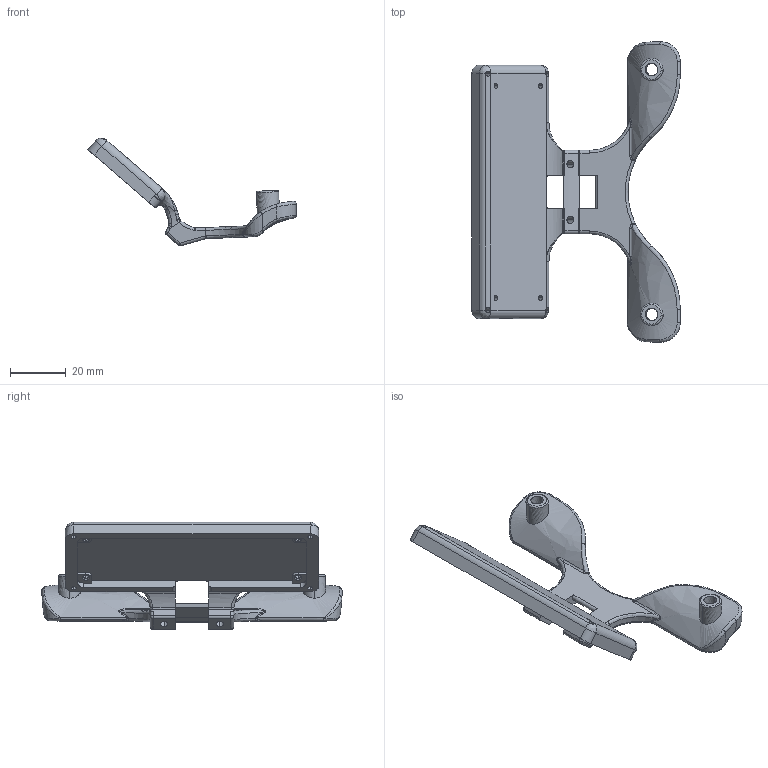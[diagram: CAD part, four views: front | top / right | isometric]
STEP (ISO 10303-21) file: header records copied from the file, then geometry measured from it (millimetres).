
FILE_DESCRIPTION (( 'STEP AP203' ), '1' );
FILE_NAME ('双目相机安装支架_d88.step', '2025-08-15T02:25:33', ( '' ), ( '' ), 'SwSTEP 2.0', 'SolidWorks 2023', '' );
FILE_SCHEMA (( 'CONFIG_CONTROL_DESIGN' ));
Length unit declared in the file: millimetre
Products named in the file (1): 双目相机安装支架_d88
Bounding box: 74.86 x 107.94 x 38.68 mm (x, y, z)
Volume: 24730.3 mm3; surface area: 14978.7 mm2
Topology: 1 solids, 1 shells, 283 faces, 746 edges, 449 vertices
Faces by surface type: cylinder 103, bspline 97, plane 50, torus 18, cone 8, sphere 7
Entity records: 14352 total; most frequent: CARTESIAN_POINT 8048, ORIENTED_EDGE 1464, DIRECTION 1107, EDGE_CURVE 732, VERTEX_POINT 447, AXIS2_PLACEMENT_3D 425, EDGE_LOOP 307, FACE_OUTER_BOUND 283
